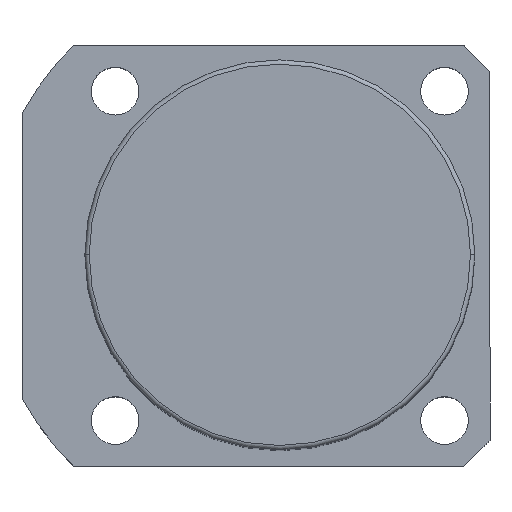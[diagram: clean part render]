
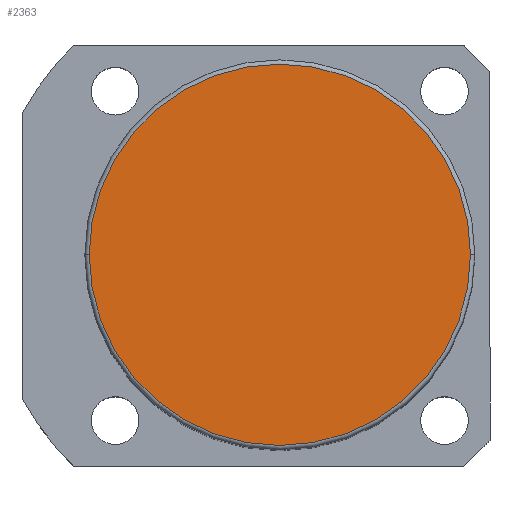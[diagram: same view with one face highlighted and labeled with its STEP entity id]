
A CAD part, top view. The second image highlights one B-rep face of the part: STEP entity #2363.
In plain terms, the highlighted planar face has unit normal (0, 0, 1).
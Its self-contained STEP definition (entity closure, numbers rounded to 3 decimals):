
#459 = DIRECTION ( 'NONE',  ( 1., 0., 0. ) ) ;
#840 = AXIS2_PLACEMENT_3D ( 'NONE', #1569, #5776, #6312 ) ;
#961 = CARTESIAN_POINT ( 'NONE',  ( 0., 0., 156.5 ) ) ;
#1260 = ORIENTED_EDGE ( 'NONE', *, *, #3909, .T. ) ;
#1569 = CARTESIAN_POINT ( 'NONE',  ( 0., 0., 156.5 ) ) ;
#1822 = ORIENTED_EDGE ( 'NONE', *, *, #2102, .T. ) ;
#2084 = PLANE ( 'NONE',  #6752 ) ;
#2102 = EDGE_CURVE ( 'NONE', #5274, #6938, #4293, .T. ) ;
#2363 = ADVANCED_FACE ( 'NONE', ( #3775 ), #2084, .T. ) ;
#2694 = CIRCLE ( 'NONE', #3552, 44. ) ;
#3552 = AXIS2_PLACEMENT_3D ( 'NONE', #7068, #3766, #459 ) ;
#3724 = DIRECTION ( 'NONE',  ( 0., 0., 1. ) ) ;
#3766 = DIRECTION ( 'NONE',  ( 0., 0., 1. ) ) ;
#3775 = FACE_OUTER_BOUND ( 'NONE', #5359, .T. ) ;
#3881 = CARTESIAN_POINT ( 'NONE',  ( -44., 0., 156.5 ) ) ;
#3909 = EDGE_CURVE ( 'NONE', #6938, #5274, #2694, .T. ) ;
#4293 = CIRCLE ( 'NONE', #840, 44. ) ;
#4724 = CARTESIAN_POINT ( 'NONE',  ( 44., 0., 156.5 ) ) ;
#4841 = DIRECTION ( 'NONE',  ( 1., 0., 0. ) ) ;
#5274 = VERTEX_POINT ( 'NONE', #3881 ) ;
#5359 = EDGE_LOOP ( 'NONE', ( #1260, #1822 ) ) ;
#5776 = DIRECTION ( 'NONE',  ( 0., 0., 1. ) ) ;
#6312 = DIRECTION ( 'NONE',  ( 1., 0., 0. ) ) ;
#6752 = AXIS2_PLACEMENT_3D ( 'NONE', #961, #3724, #4841 ) ;
#6938 = VERTEX_POINT ( 'NONE', #4724 ) ;
#7068 = CARTESIAN_POINT ( 'NONE',  ( 0., 0., 156.5 ) ) ;
